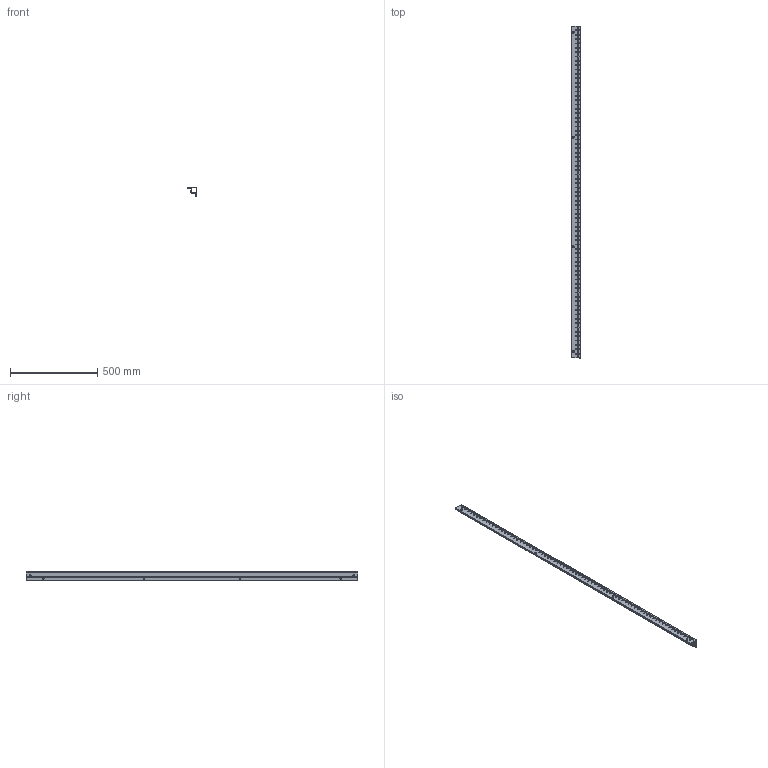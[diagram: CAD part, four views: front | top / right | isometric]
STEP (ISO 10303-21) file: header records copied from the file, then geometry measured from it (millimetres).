
FILE_DESCRIPTION(('Open CASCADE Model'),'2;1');
FILE_NAME('Open CASCADE Shape Model','2025-01-27T17:02:33',('Author'),( 'Open CASCADE'),'Open CASCADE STEP processor 7.8','Open CASCADE 7.8' ,'Unknown');
FILE_SCHEMA(('AUTOMOTIVE_DESIGN { 1 0 10303 214 1 1 1 1 }'));
Products named in the file (1): Solid1
Bounding box: 49.7 x 1899 x 49.7 mm (x, y, z)
Surface area: 704124.9 mm2 (no closed solid volume)
Topology: 0 solids, 1 shells, 3515 faces, 10398 edges, 6958 vertices
Faces by surface type: cylinder 2292, plane 1223
Entity records: 121570 total; most frequent: DIRECTION 21904, CARTESIAN_POINT 21214, ORIENTED_EDGE 20786, EDGE_CURVE 10398, AXIS2_PLACEMENT_3D 8104, VERTEX_POINT 6958, LINE 5696, VECTOR 5696
